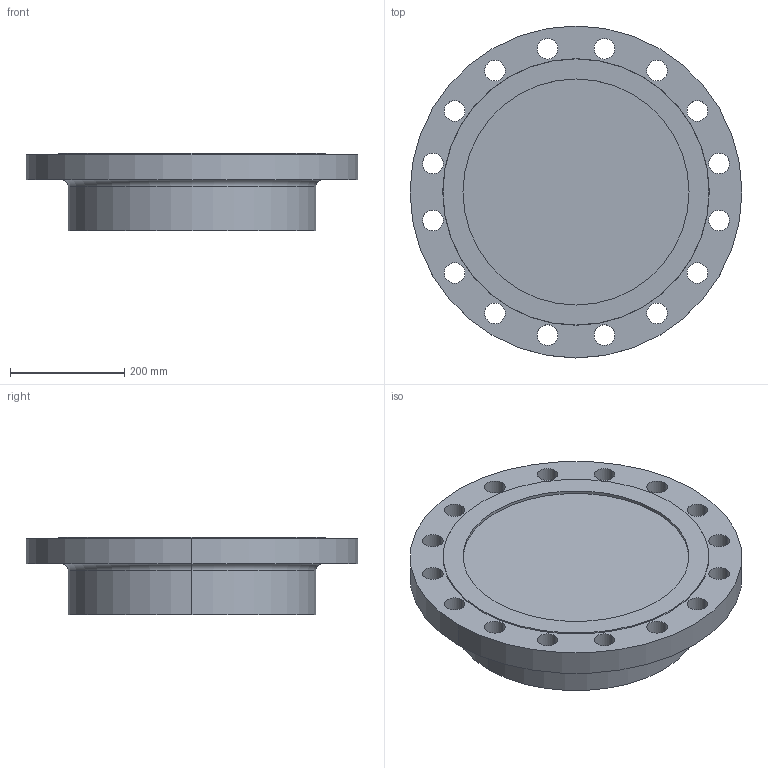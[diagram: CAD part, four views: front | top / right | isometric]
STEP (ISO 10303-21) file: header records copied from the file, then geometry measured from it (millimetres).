
FILE_DESCRIPTION (( 'STEP AP214' ), '1' );
FILE_NAME ('PN40 DN350 Type 21(i) - Type G Face.STEP', '2019-01-05T21:45:30', ( '' ), ( '' ), 'SwSTEP 2.0', 'SolidWorks 2019', '' );
FILE_SCHEMA (( 'AUTOMOTIVE_DESIGN' ));
Length unit declared in the file: millimetre
Products named in the file (1): PN40 DN350 Type 21(i) - Type G Face
Bounding box: 580 x 580 x 135 mm (x, y, z)
Volume: 23662305.6 mm3; surface area: 778778.4 mm2
Topology: 1 solids, 1 shells, 47 faces, 124 edges, 82 vertices
Faces by surface type: cylinder 38, plane 5, torus 2, cone 2
Entity records: 1604 total; most frequent: DIRECTION 304, CARTESIAN_POINT 254, ORIENTED_EDGE 248, AXIS2_PLACEMENT_3D 132, EDGE_CURVE 124, CIRCLE 84, VERTEX_POINT 82, EDGE_LOOP 82
